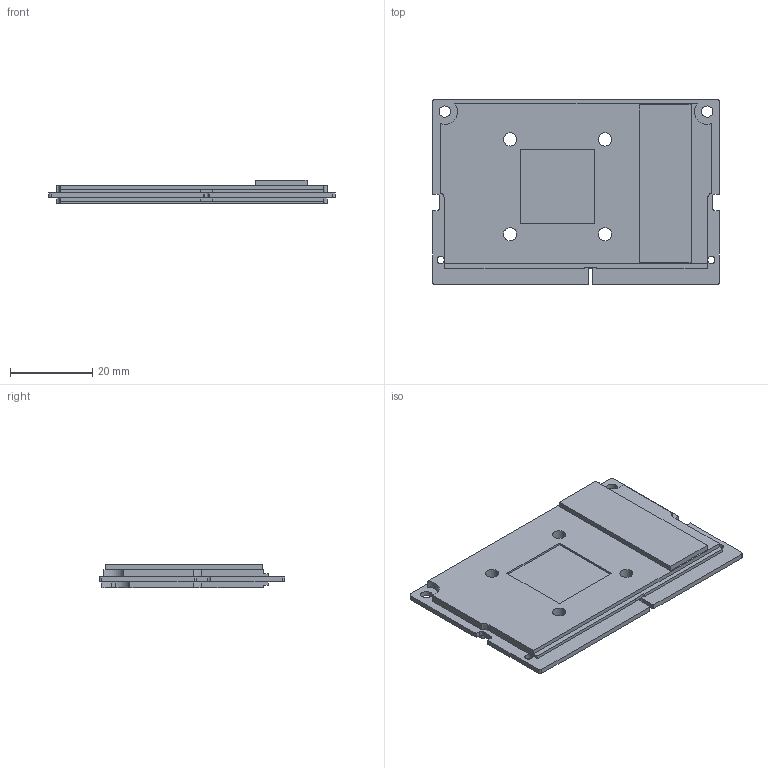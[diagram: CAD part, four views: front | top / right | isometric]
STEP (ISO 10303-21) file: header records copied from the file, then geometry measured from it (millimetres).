
FILE_DESCRIPTION((''),'2;1');
FILE_NAME('142-63636-1GEN_A00','2020-08-13T',('cgalutera'),(''),'CREO PARAMETRIC BY PTC INC, 2018070','CREO PARAMETRIC BY PTC INC, 2018070','');
FILE_SCHEMA(('CONFIG_CONTROL_DESIGN','GEOMETRIC_VALIDATION_PROPERTIES_MIM'));
Length unit declared in the file: millimetre
Products named in the file (1): 142-63636-1GEN_A00
Bounding box: 69.6 x 45 x 5.68 mm (x, y, z)
Volume: 11509.3 mm3; surface area: 7651.8 mm2
Topology: 1 solids, 1 shells, 111 faces, 312 edges, 208 vertices
Faces by surface type: plane 70, cylinder 37, extrusion 4
Entity records: 5403 total; most frequent: CARTESIAN_POINT 693, ORIENTED_EDGE 624, DIRECTION 596, PRESENTATION_STYLE_ASSIGNMENT 375, STYLED_ITEM 317, CURVE_STYLE 316, EDGE_CURVE 312, VECTOR 234
